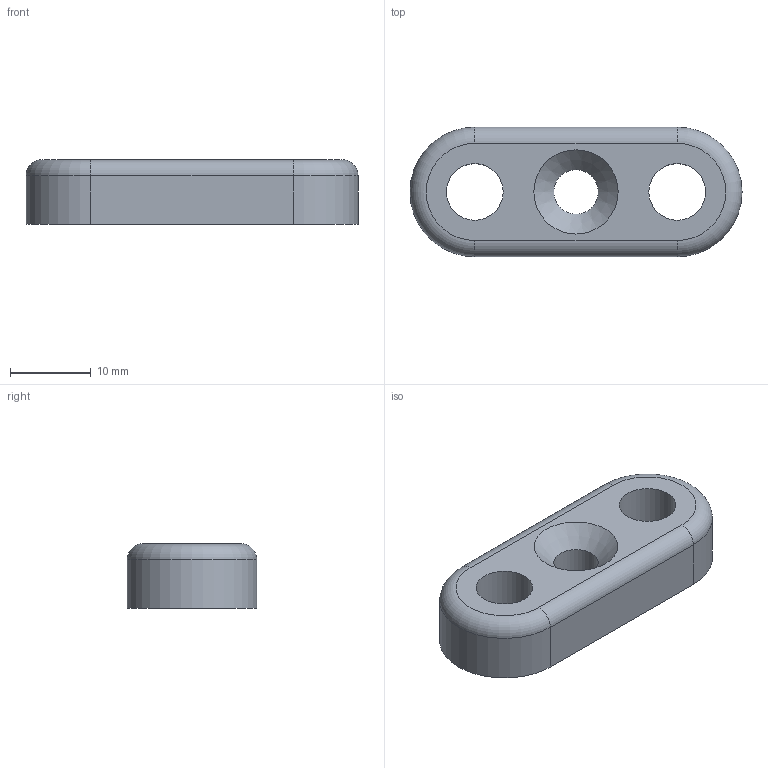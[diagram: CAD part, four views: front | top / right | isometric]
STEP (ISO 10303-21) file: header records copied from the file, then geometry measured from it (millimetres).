
FILE_DESCRIPTION(('FreeCAD Model'),'2;1');
FILE_NAME('Open CASCADE Shape Model','2023-05-06T18:44:57',('Author'),( ''),'Open CASCADE STEP processor 7.5','FreeCAD','Unknown');
FILE_SCHEMA(('AUTOMOTIVE_DESIGN { 1 0 10303 214 1 1 1 1 }'));
Length unit declared in the file: millimetre
Products named in the file (1): part_phone_connector
Bounding box: 41 x 16 x 8 mm (x, y, z)
Volume: 3851.8 mm3; surface area: 2188 mm2
Topology: 1 solids, 1 shells, 14 faces, 31 edges, 19 vertices
Faces by surface type: cylinder 7, plane 4, torus 2, cone 1
Full cylindrical faces by diameter (mm): 5.5 x1, 7 x2
Entity records: 561 total; most frequent: DIRECTION 74, CARTESIAN_POINT 61, ORIENTED_EDGE 54, AXIS2_PLACEMENT_3D 32, EDGE_CURVE 27, EDGE_LOOP 24, VERTEX_POINT 19, CIRCLE 17
